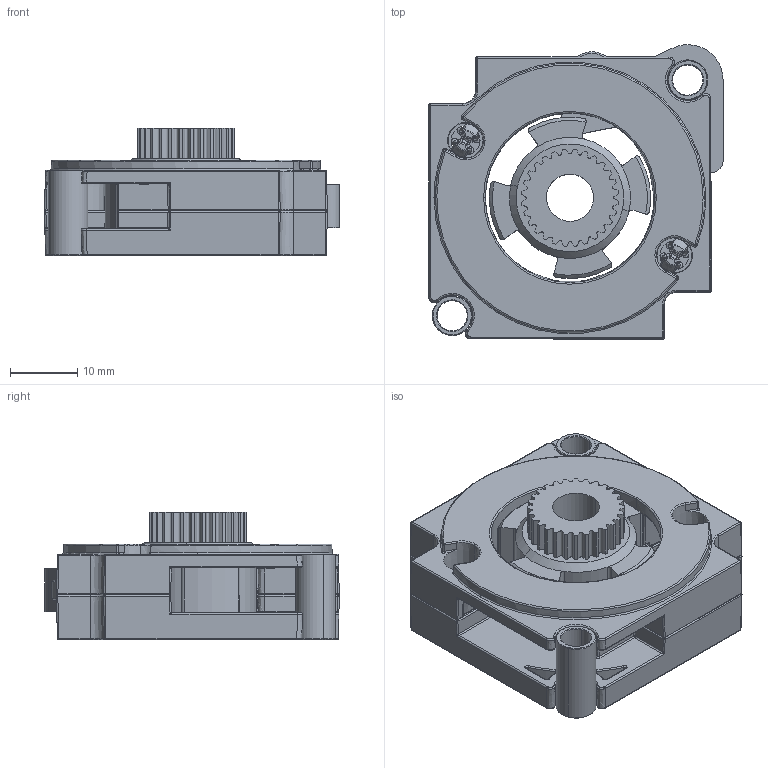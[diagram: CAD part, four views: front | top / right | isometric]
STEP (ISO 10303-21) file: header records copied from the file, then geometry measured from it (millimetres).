
FILE_DESCRIPTION (( 'STEP AP214' ), '1' );
FILE_NAME ('217-6048-CW-20171201.STEP', '2017-12-01T16:26:44', ( '' ), ( '' ), 'SwSTEP 2.0', 'SolidWorks 2017', '' );
FILE_SCHEMA (( 'AUTOMOTIVE_DESIGN' ));
Length unit declared in the file: millimetre
Products named in the file (7): 217-6048-009 Rev4; 217-6048-CW-20171201; 217-6048-003 Rev23; 217-4783-006 Rev3; 217-6048-011 Rev9; 217-6048-001 Rev19; 217-6048-010 Rev10
Assembly tree (7 placements, depth 2):
  217-6048-CW-20171201
    217-6048-010 Rev10
    217-6048-011 Rev9
    217-4783-006 Rev3  x2
    217-6048-001 Rev19
    217-6048-003 Rev23
    217-6048-009 Rev4
Bounding box: 43.79 x 43.74 x 18.9 mm (x, y, z)
Volume: 12317.9 mm3; surface area: 14201.2 mm2
Topology: 7 solids, 7 shells, 2064 faces, 4754 edges, 2659 vertices
Faces by surface type: cylinder 602, bspline 549, plane 273, sphere 256, torus 237, cone 147
Entity records: 77838 total; most frequent: CARTESIAN_POINT 35383, ORIENTED_EDGE 9290, DIRECTION 8554, EDGE_CURVE 4645, AXIS2_PLACEMENT_3D 3645, VERTEX_POINT 2629, CIRCLE 2134, EDGE_LOOP 2096
